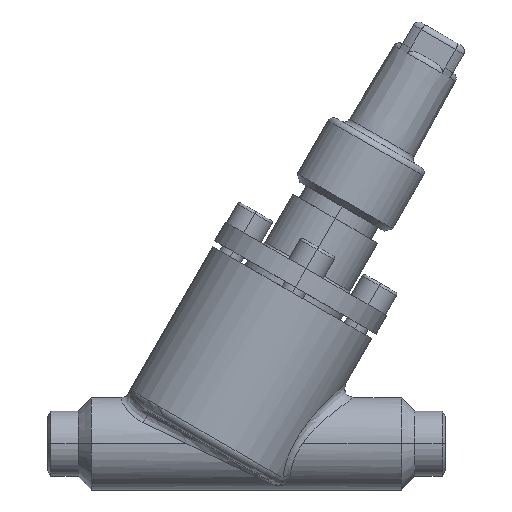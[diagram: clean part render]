
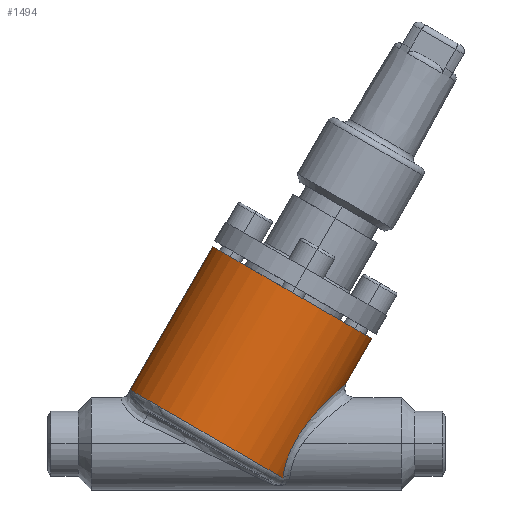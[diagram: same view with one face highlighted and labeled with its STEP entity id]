
A CAD part, top view. The second image highlights one B-rep face of the part: STEP entity #1494.
In plain terms, the highlighted cylindrical face has radius 30 mm (diameter 60 mm), a partial arc.
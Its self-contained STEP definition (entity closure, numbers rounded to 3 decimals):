
#16748 = EDGE_CURVE ( 'NONE', #1653, #6958, #9917, .T. ) ;
#16839 = ORIENTED_EDGE ( 'NONE', *, *, #16748, .F. ) ;
#1159 = ORIENTED_EDGE ( 'NONE', *, *, #12013, .T. ) ;
#1267 = EDGE_LOOP ( 'NONE', ( #2408, #1159, #11518, #16216, #16839 ) ) ;
#1494 = ADVANCED_FACE ( 'NONE', ( #8337 ), #8341, .T. ) ;
#1653 = VERTEX_POINT ( 'NONE', #8491 ) ;
#1871 = VERTEX_POINT ( 'NONE', #8647 ) ;
#2091 = EDGE_CURVE ( 'NONE', #1871, #1653, #8920, .T. ) ;
#2408 = ORIENTED_EDGE ( 'NONE', *, *, #2091, .F. ) ;
#6849 = VERTEX_POINT ( 'NONE', #9163 ) ;
#6958 = VERTEX_POINT ( 'NONE', #9293 ) ;
#7997 = CARTESIAN_POINT ( 'NONE',  ( 27., 17.598, 0. ) ) ;
#8337 = FACE_OUTER_BOUND ( 'NONE', #1267, .T. ) ;
#8341 = CYLINDRICAL_SURFACE ( 'NONE', #8342, 30. ) ;
#8342 = AXIS2_PLACEMENT_3D ( 'NONE', #8343, #8344, #8345 ) ;
#8343 = CARTESIAN_POINT ( 'NONE',  ( 79.981, 49.363, 0. ) ) ;
#8344 = DIRECTION ( 'NONE',  ( -0.5, -0.866, 0. ) ) ;
#8345 = DIRECTION ( 'NONE',  ( 0.866, -0.5, 0. ) ) ;
#8491 = CARTESIAN_POINT ( 'NONE',  ( 105.962, 34.363, 0. ) ) ;
#8647 = CARTESIAN_POINT ( 'NONE',  ( 54., 64.363, 0. ) ) ;
#8920 = CIRCLE ( 'NONE', #8921, 30. ) ;
#8921 = AXIS2_PLACEMENT_3D ( 'NONE', #8922, #8923, #8924 ) ;
#8922 = CARTESIAN_POINT ( 'NONE',  ( 79.981, 49.363, 0. ) ) ;
#8923 = DIRECTION ( 'NONE',  ( 0.5, 0.866, 0. ) ) ;
#8924 = DIRECTION ( 'NONE',  ( -0.866, 0.5, 0. ) ) ;
#9006 = CIRCLE ( 'NONE', #9007, 30. ) ;
#9007 = AXIS2_PLACEMENT_3D ( 'NONE', #9008, #9009, #9010 ) ;
#9008 = CARTESIAN_POINT ( 'NONE',  ( 52.981, 2.598, 0. ) ) ;
#9009 = DIRECTION ( 'NONE',  ( 0.5, 0.866, 0. ) ) ;
#9010 = DIRECTION ( 'NONE',  ( -0.866, 0.5, 0. ) ) ;
#9163 = CARTESIAN_POINT ( 'NONE',  ( 76.85, -11.183, 11.847 ) ) ;
#9293 = CARTESIAN_POINT ( 'NONE',  ( 97.438, 19.6, 0. ) ) ;
#9822 = VERTEX_POINT ( 'NONE', #7997 ) ;
#9864 = LINE ( 'NONE', #9865, #9866 ) ;
#9865 = CARTESIAN_POINT ( 'NONE',  ( 54., 64.363, 0. ) ) ;
#9866 = VECTOR ( 'NONE', #9867, 1000. ) ;
#9867 = DIRECTION ( 'NONE',  ( -0.5, -0.866, 0. ) ) ;
#9917 = LINE ( 'NONE', #9920, #9921 ) ;
#9920 = CARTESIAN_POINT ( 'NONE',  ( 105.962, 34.363, 0. ) ) ;
#9921 = VECTOR ( 'NONE', #9922, 1000. ) ;
#9922 = DIRECTION ( 'NONE',  ( -0.5, -0.866, 0. ) ) ;
#11167 = EDGE_CURVE ( 'NONE', #9822, #6849, #9006, .T. ) ;
#11518 = ORIENTED_EDGE ( 'NONE', *, *, #11167, .T. ) ;
#12013 = EDGE_CURVE ( 'NONE', #1871, #9822, #9864, .T. ) ;
#13526 = EDGE_CURVE ( 'NONE', #6849, #6958, #13974, .T. ) ;
#13974 = B_SPLINE_CURVE_WITH_KNOTS ( 'NONE', 3,
 ( #13975, #13976, #13977, #13978, #13979, #13980, #13981, #13982, #13983, #13984, #13986, #13987, #13988, #13989, #13990, #13991, #13992, #13993, #13994, #13995, #13996, #13997, #13998, #13999, #14000, #14001, #14002, #14003, #14004, #14005, #14006, #14007, #14008, #14009, #14010, #14011, #14012, #14013, #14014, #14015, #14016, #14017, #14019, #14020, #14021, #14022, #14023, #14024 ),
 .UNSPECIFIED., .F., .F.,
 ( 4, 2, 2, 2, 2, 2, 2, 2, 2, 2, 2, 2, 2, 2, 2, 2, 2, 2, 2, 2, 2, 2, 2, 4 ),
 ( 0., 0.001, 0.003, 0.006, 0.007, 0.009, 0.012, 0.013, 0.015, 0.018, 0.021, 0.022, 0.023, 0.029, 0.032, 0.035, 0.037, 0.038, 0.041, 0.043, 0.044, 0.045, 0.046, 0.047 ),
 .UNSPECIFIED. ) ;
#13975 = CARTESIAN_POINT ( 'NONE',  ( 76.85, -11.183, 11.847 ) ) ;
#13976 = CARTESIAN_POINT ( 'NONE',  ( 76.899, -10.819, 12.172 ) ) ;
#13977 = CARTESIAN_POINT ( 'NONE',  ( 76.955, -10.443, 12.48 ) ) ;
#13978 = CARTESIAN_POINT ( 'NONE',  ( 77.086, -9.668, 13.062 ) ) ;
#13979 = CARTESIAN_POINT ( 'NONE',  ( 77.161, -9.268, 13.338 ) ) ;
#13980 = CARTESIAN_POINT ( 'NONE',  ( 77.413, -8.051, 14.104 ) ) ;
#13981 = CARTESIAN_POINT ( 'NONE',  ( 77.62, -7.214, 14.541 ) ) ;
#13982 = CARTESIAN_POINT ( 'NONE',  ( 77.997, -5.928, 15.093 ) ) ;
#13983 = CARTESIAN_POINT ( 'NONE',  ( 78.134, -5.494, 15.261 ) ) ;
#13984 = CARTESIAN_POINT ( 'NONE',  ( 78.432, -4.617, 15.562 ) ) ;
#13986 = CARTESIAN_POINT ( 'NONE',  ( 78.593, -4.172, 15.696 ) ) ;
#13987 = CARTESIAN_POINT ( 'NONE',  ( 79.107, -2.851, 16.045 ) ) ;
#13988 = CARTESIAN_POINT ( 'NONE',  ( 79.489, -1.977, 16.208 ) ) ;
#13989 = CARTESIAN_POINT ( 'NONE',  ( 80.122, -0.679, 16.365 ) ) ;
#13990 = CARTESIAN_POINT ( 'NONE',  ( 80.343, -0.248, 16.402 ) ) ;
#13991 = CARTESIAN_POINT ( 'NONE',  ( 80.803, 0.61, 16.449 ) ) ;
#13992 = CARTESIAN_POINT ( 'NONE',  ( 81.043, 1.037, 16.458 ) ) ;
#13993 = CARTESIAN_POINT ( 'NONE',  ( 81.779, 2.297, 16.445 ) ) ;
#13994 = CARTESIAN_POINT ( 'NONE',  ( 82.297, 3.112, 16.384 ) ) ;
#13995 = CARTESIAN_POINT ( 'NONE',  ( 83.374, 4.703, 16.171 ) ) ;
#13996 = CARTESIAN_POINT ( 'NONE',  ( 83.934, 5.479, 16.019 ) ) ;
#13997 = CARTESIAN_POINT ( 'NONE',  ( 84.801, 6.617, 15.726 ) ) ;
#13998 = CARTESIAN_POINT ( 'NONE',  ( 85.095, 6.992, 15.618 ) ) ;
#13999 = CARTESIAN_POINT ( 'NONE',  ( 85.684, 7.728, 15.382 ) ) ;
#14000 = CARTESIAN_POINT ( 'NONE',  ( 85.981, 8.09, 15.254 ) ) ;
#14001 = CARTESIAN_POINT ( 'NONE',  ( 87.472, 9.87, 14.566 ) ) ;
#14002 = CARTESIAN_POINT ( 'NONE',  ( 88.689, 11.203, 13.865 ) ) ;
#14003 = CARTESIAN_POINT ( 'NONE',  ( 90.504, 13.088, 12.555 ) ) ;
#14004 = CARTESIAN_POINT ( 'NONE',  ( 91.099, 13.689, 12.08 ) ) ;
#14005 = CARTESIAN_POINT ( 'NONE',  ( 92.261, 14.836, 11.045 ) ) ;
#14006 = CARTESIAN_POINT ( 'NONE',  ( 92.827, 15.381, 10.484 ) ) ;
#14007 = CARTESIAN_POINT ( 'NONE',  ( 93.643, 16.155, 9.565 ) ) ;
#14008 = CARTESIAN_POINT ( 'NONE',  ( 93.91, 16.406, 9.246 ) ) ;
#14009 = CARTESIAN_POINT ( 'NONE',  ( 94.43, 16.891, 8.577 ) ) ;
#14010 = CARTESIAN_POINT ( 'NONE',  ( 94.683, 17.124, 8.227 ) ) ;
#14011 = CARTESIAN_POINT ( 'NONE',  ( 95.404, 17.786, 7.147 ) ) ;
#14012 = CARTESIAN_POINT ( 'NONE',  ( 95.84, 18.18, 6.378 ) ) ;
#14013 = CARTESIAN_POINT ( 'NONE',  ( 96.402, 18.683, 5.129 ) ) ;
#14014 = CARTESIAN_POINT ( 'NONE',  ( 96.575, 18.837, 4.694 ) ) ;
#14015 = CARTESIAN_POINT ( 'NONE',  ( 96.877, 19.105, 3.803 ) ) ;
#14016 = CARTESIAN_POINT ( 'NONE',  ( 97.006, 19.22, 3.348 ) ) ;
#14017 = CARTESIAN_POINT ( 'NONE',  ( 97.217, 19.406, 2.42 ) ) ;
#14019 = CARTESIAN_POINT ( 'NONE',  ( 97.299, 19.478, 1.946 ) ) ;
#14020 = CARTESIAN_POINT ( 'NONE',  ( 97.382, 19.551, 1.218 ) ) ;
#14021 = CARTESIAN_POINT ( 'NONE',  ( 97.403, 19.57, 0.973 ) ) ;
#14022 = CARTESIAN_POINT ( 'NONE',  ( 97.431, 19.594, 0.485 ) ) ;
#14023 = CARTESIAN_POINT ( 'NONE',  ( 97.438, 19.6, 0.242 ) ) ;
#14024 = CARTESIAN_POINT ( 'NONE',  ( 97.438, 19.6, 0. ) ) ;
#16216 = ORIENTED_EDGE ( 'NONE', *, *, #13526, .T. ) ;
